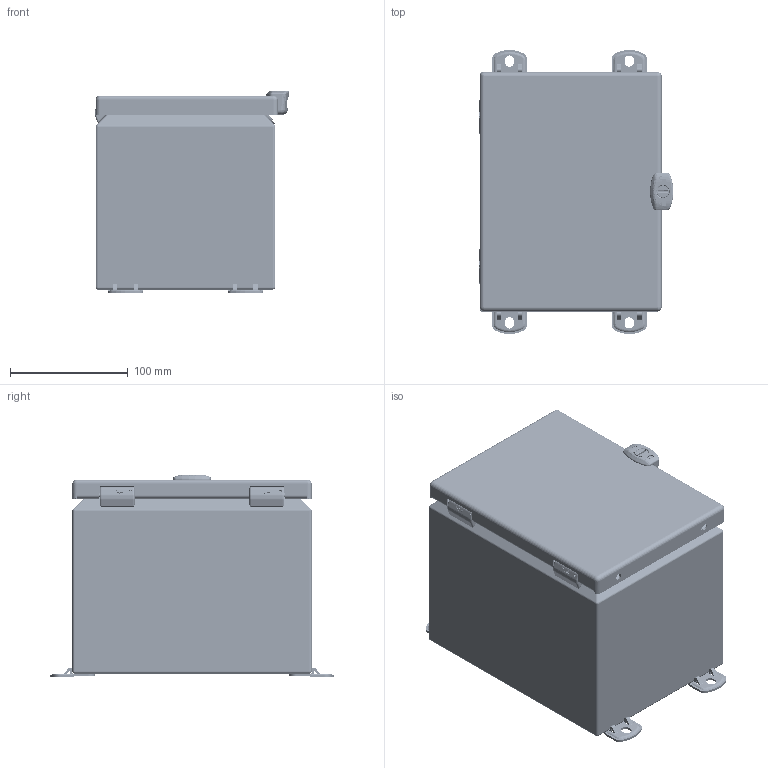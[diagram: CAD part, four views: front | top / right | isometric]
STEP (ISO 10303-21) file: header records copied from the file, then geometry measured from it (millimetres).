
FILE_DESCRIPTION(/* description */ ('5412ESSMPCH 8" x 6" x 6" Assembly'),/* implementation_level */ '2;1');
FILE_NAME(/* name */ 'C:\Vault_Workspace\Inventor_Dwg\BoxCad\Result\5412ESSMPCH0806066\e-mail\3D\5412ESSMPCH0806066.stp',/* time_stamp */ '2023-03-10T18:25:14-05:00',/* author */ ('BoxCad'),/* organization */ (''),/* preprocessor_version */ 'ST-DEVELOPER v18.1',/* originating_system */ 'Autodesk Inventor 2020',/* authorisation */ '');
FILE_SCHEMA (('AUTOMOTIVE_DESIGN { 1 0 10303 214 3 1 1 }'));
Products named in the file (37): 5412ESSMPCH0806066; 5412ESSMPCH0806066B; 5412ESSMPCH0806066B-P; STK-Q-08500; STK-A-70469-1; STK-Q-70469-P; STK-Q-70469-S; STK-Q-70469-O; STK-Q-08100-1; 5412ESSMPCH0806066MF-P; 880SP0806G; 880SP0806G-P; 5412ESSMPCH0806066AK; STK-Q-03200; 5412ESSMPCH0806066C; 5412ESSMPCH0806066C-P; 5412ESSMPCH0806066G; STK-A-33038-1; STK-A-33038-2; STK-Q-33038-B; STK-Q-33038-S; STK-Q-33038-G; STK-P-02400S; STANDOFF_SS_M6 x 10mm; STK-S-00100; STK-A-880SCQ3MS-1; STK-Q-79961-A; STK-Q-79961-B; STK-Q-70820; STK-Q-08100-3; STK-Q-08100-4; STK-Q-08100-A; STK-Q-08100-B; STK-Q-10249-3; STK-Q-10249-4; STK-Q-10249-A; STK-Q-10249-B
Assembly tree (56 placements, depth 4):
  5412ESSMPCH0806066
    5412ESSMPCH0806066B
      5412ESSMPCH0806066B-P
      STK-Q-08500  x4
      STK-P-02400S
      STANDOFF_SS_M6 x 10mm
      STK-A-70469-1
        STK-Q-70469-P
        STK-Q-70469-S
        STK-Q-70469-O
      STK-Q-08100-1
        STK-Q-08100-A
        STK-Q-08100-B
      5412ESSMPCH0806066MF-P  x4
    880SP0806G
      880SP0806G-P
    5412ESSMPCH0806066AK
      STK-Q-03200  x4
    5412ESSMPCH0806066C
      5412ESSMPCH0806066C-P
      5412ESSMPCH0806066G
      STK-A-33038-1
        STK-Q-33038-B
        STK-Q-33038-S
        STK-Q-33038-G
      STK-A-33038-2
        STK-Q-33038-B
        STK-Q-33038-S
        STK-Q-33038-G
      STK-P-02400S
      STANDOFF_SS_M6 x 10mm
      STK-S-00100
      STK-A-880SCQ3MS-1
        STK-Q-79961-A
        STK-Q-79961-B
        STK-Q-70820
    STK-Q-08100-3
      STK-Q-08100-A
      STK-Q-08100-B
    STK-Q-08100-4
      STK-Q-08100-A
      STK-Q-08100-B
    STK-Q-10249-3
      STK-Q-10249-A
      STK-Q-10249-B
    STK-Q-10249-4
      STK-Q-10249-A
      STK-Q-10249-B
Bounding box: 165.07 x 241.2 x 171.69 mm (x, y, z)
Volume: 338634 mm3; surface area: 481800.2 mm2
Topology: 43 solids, 43 shells, 6902 faces, 17849 edges, 11080 vertices
Faces by surface type: plane 3374, bspline 1620, cylinder 1325, torus 342, sphere 138, cone 103
Full cylindrical faces by diameter (mm): 0.762 x6, 0.9 x6, 3 x2, 3.175 x2, 3.25 x2, 4.2 x3, 4.4 x9, 4.45 x2, 4.9 x23, 5 x4, 5.1 x30, 5.9 x32, 6 x6, 6.1 x6, 7.62 x3, 8.128 x4, 8.382 x1, 8.6 x1, 10 x6, 10.465 x1, 10.7 x1, 13 x4
Entity records: 133990 total; most frequent: CARTESIAN_POINT 46515, ORIENTED_EDGE 19252, DIRECTION 15696, EDGE_CURVE 9626, VERTEX_POINT 6014, LINE 5340, VECTOR 5340, AXIS2_PLACEMENT_3D 5178
